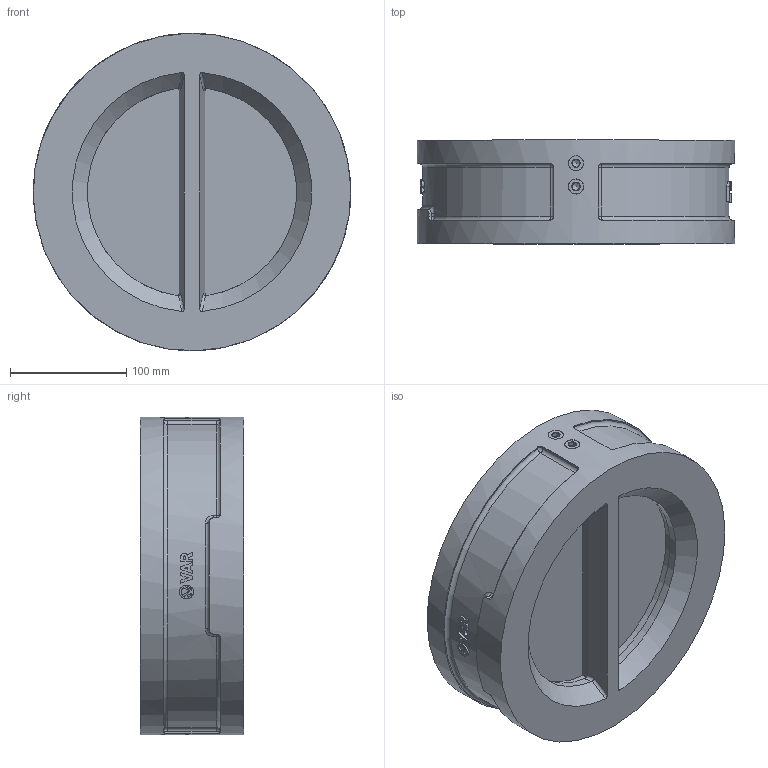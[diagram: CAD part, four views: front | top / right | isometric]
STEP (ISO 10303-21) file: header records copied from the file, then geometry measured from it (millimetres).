
FILE_DESCRIPTION(('STEP AP203'), '1');
FILE_NAME('VAR ZETKA 钺疣蝽 觌囡囗', '', ('UNSPECIFIED'), ('UNSPECIFIED'), 'C3D Converter', 'C3D Toolkit', '');
FILE_SCHEMA(('CONFIG_CONTROL_DESIGN'));
Length unit declared in the file: millimetre
Assembly tree (18 placements, depth 2):
  (unnamed)
    (unnamed)
    (unnamed)  x2
    (unnamed)  x4
    (unnamed)
    (unnamed)  x2
    (unnamed)  x2
    (unnamed)  x2
    (unnamed)  x2
    (unnamed)  x2
Bounding box: 272.95 x 89 x 273 mm (x, y, z)
Volume: 2370270.3 mm3; surface area: 396317.8 mm2
Topology: 33 solids, 33 shells, 568 faces, 1384 edges, 898 vertices
Faces by surface type: plane 245, extrusion 150, cylinder 117, bspline 22, cone 18, sphere 8, torus 8
Full cylindrical faces by diameter (mm): 3 x2, 5.5 x4, 8 x8, 11.52 x16, 11.94 x1, 12.8 x4, 13 x4, 22.02 x6, 213 x1, 224 x2, 273 x1
Entity records: 34744 total; most frequent: CARTESIAN_POINT 21726, ORIENTED_EDGE 2154, DIRECTION 1625, EDGE_CURVE 1077, VERTEX_POINT 723, VECTOR 577, EDGE_LOOP 542, AXIS2_PLACEMENT_3D 524
